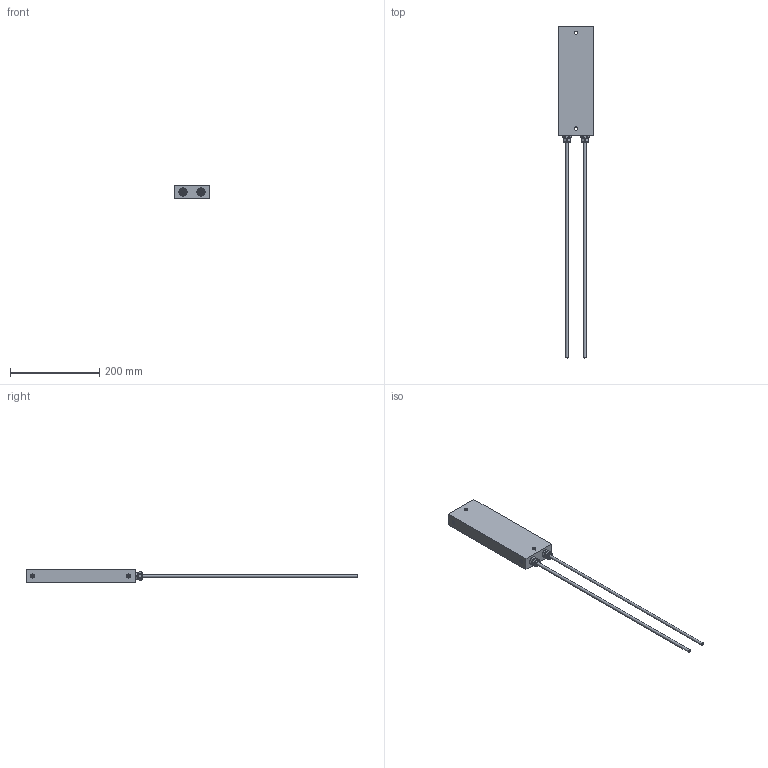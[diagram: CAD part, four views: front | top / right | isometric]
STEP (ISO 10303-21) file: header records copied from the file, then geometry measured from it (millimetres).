
FILE_DESCRIPTION(/* description */ (''),/* implementation_level */ '2;1');
FILE_NAME(/* name */ 'C:\_Vault\Dati\CATALOGO\RFK\Disegni catalogo\RFK 600.stp',/* time_stamp */ '2018-01-31T09:18:16+01:00',/* author */ ('Diego'),/* organization */ ('Fairfild Srl'),/* preprocessor_version */ 'ST-DEVELOPER v16.5',/* originating_system */ 'Autodesk Inventor 2017',/* authorisation */ '');
FILE_SCHEMA (('CONFIG_CONTROL_DESIGN'));
Length unit declared in the file: millimetre
Products named in the file (1): RFK 600
Bounding box: 80 x 744.5 x 30 mm (x, y, z)
Volume: 1141224.5 mm3; surface area: 777511.4 mm2
Topology: 3 solids, 11 shells, 300 faces, 746 edges, 474 vertices
Faces by surface type: plane 140, cone 78, cylinder 58, torus 24
Full cylindrical faces by diameter (mm): 1.5 x2, 3.9 x4, 4.2 x4, 6.3 x4, 7 x4, 7.5 x5, 7.74 x4, 8 x1, 9.6 x2, 9.8 x2, 11 x2, 11.6 x2, 13 x2, 13.86 x2, 15.2 x2, 17 x4
Entity records: 8634 total; most frequent: CARTESIAN_POINT 1849, DIRECTION 1342, ORIENTED_EDGE 1272, EDGE_CURVE 632, AXIS2_PLACEMENT_3D 561, VERTEX_POINT 436, EDGE_LOOP 412, STYLED_ITEM 301
